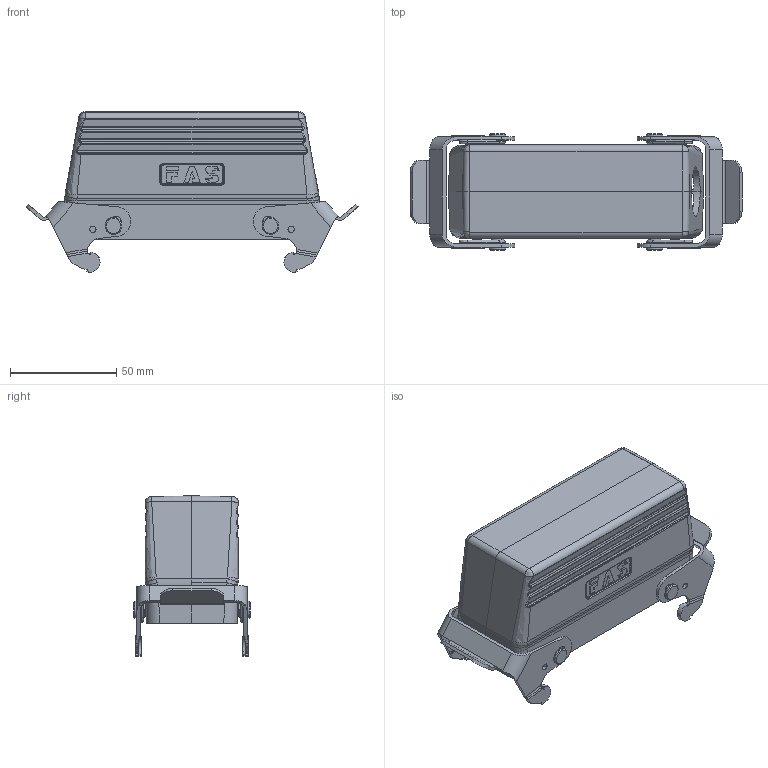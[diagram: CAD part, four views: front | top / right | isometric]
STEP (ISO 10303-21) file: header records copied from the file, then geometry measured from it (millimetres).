
FILE_DESCRIPTION (( 'STEP AP203' ), '1' );
FILE_NAME ('H24B-TSB-M25&32.STEP', '2020-11-21T06:26:51', ( '' ), ( '' ), 'SwSTEP 2.0', 'SolidWorks 2016', '' );
FILE_SCHEMA (( 'CONFIG_CONTROL_DESIGN' ));
Length unit declared in the file: millimetre
Products named in the file (6): maoding; H24B-TS; tanhuang; 24bcaixinshuangkou; H24B-TSB-M25&32; jinshushuangkou
Assembly tree (8 placements, depth 3):
  H24B-TSB-M25&32
    jinshushuangkou  x2
      24bcaixinshuangkou
      tanhuang
      maoding
    H24B-TS
Bounding box: 156.49 x 55 x 75.56 mm (x, y, z)
Volume: 99145.5 mm3; surface area: 55338.7 mm2
Topology: 11 solids, 11 shells, 831 faces, 2028 edges, 1258 vertices
Faces by surface type: cylinder 297, plane 282, bspline 198, cone 54
Entity records: 27167 total; most frequent: CARTESIAN_POINT 13328, ORIENTED_EDGE 3026, DIRECTION 2336, EDGE_CURVE 1513, VERTEX_POINT 932, AXIS2_PLACEMENT_3D 819, VECTOR 698, LINE 698
